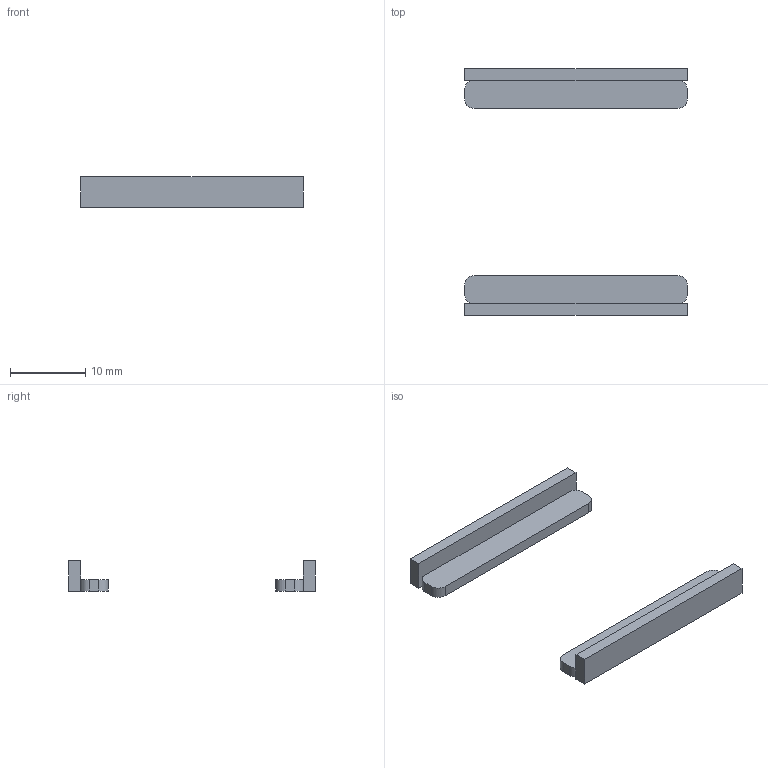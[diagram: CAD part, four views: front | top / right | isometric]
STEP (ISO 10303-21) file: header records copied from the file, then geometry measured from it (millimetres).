
FILE_DESCRIPTION(('Open CASCADE Model'),'2;1');
FILE_NAME('Open CASCADE Shape Model','2026-09-15T13:51:01',('Author'),( 'Open CASCADE'),'Open CASCADE STEP processor 7.7','Open CASCADE 7.7' ,'Unknown');
FILE_SCHEMA(('AUTOMOTIVE_DESIGN { 1 0 10303 214 1 1 1 1 }'));
Length unit declared in the file: millimetre
Products named in the file (3): ASSEMBLY; SOLID
Assembly tree (2 placements, depth 2):
  ASSEMBLY
    SOLID
    SOLID
Bounding box: 29.6 x 32.8 x 4 mm (x, y, z)
Volume: 703.7 mm3; surface area: 1147.3 mm2
Topology: 2 solids, 2 shells, 28 faces, 72 edges, 48 vertices
Faces by surface type: plane 20, cylinder 8
Entity records: 1844 total; most frequent: CARTESIAN_POINT 355, DIRECTION 274, LINE 172, VECTOR 172, ORIENTED_EDGE 144, PCURVE 144, DEFINITIONAL_REPRESENTATION 144, EDGE_CURVE 72
